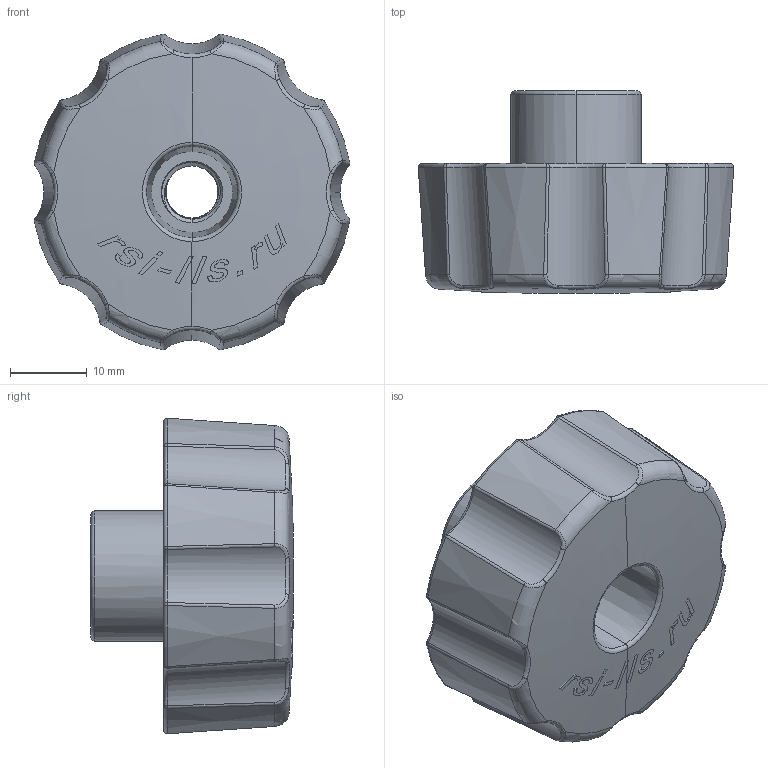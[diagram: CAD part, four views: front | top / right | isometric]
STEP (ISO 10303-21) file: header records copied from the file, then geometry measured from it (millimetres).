
FILE_DESCRIPTION (( 'STEP AP214' ), '1' );
FILE_NAME ('D42M8.STEP', '2020-12-30T10:31:25', ( '' ), ( '' ), 'SwSTEP 2.0', 'SolidWorks 2020', '' );
FILE_SCHEMA (( 'AUTOMOTIVE_DESIGN' ));
Length unit declared in the file: millimetre
Products named in the file (1): D42M8
Bounding box: 41.23 x 26.43 x 41.23 mm (x, y, z)
Volume: 11168.1 mm3; surface area: 9398.2 mm2
Topology: 12 solids, 12 shells, 514 faces, 1233 edges, 697 vertices
Faces by surface type: bspline 161, plane 111, cylinder 106, sphere 64, torus 57, cone 15
Entity records: 26387 total; most frequent: CARTESIAN_POINT 11508, ORIENTED_EDGE 2370, DIRECTION 1940, EDGE_CURVE 1185, AXIS2_PLACEMENT_3D 789, VERTEX_POINT 697, EDGE_LOOP 518, FACE_OUTER_BOUND 514
